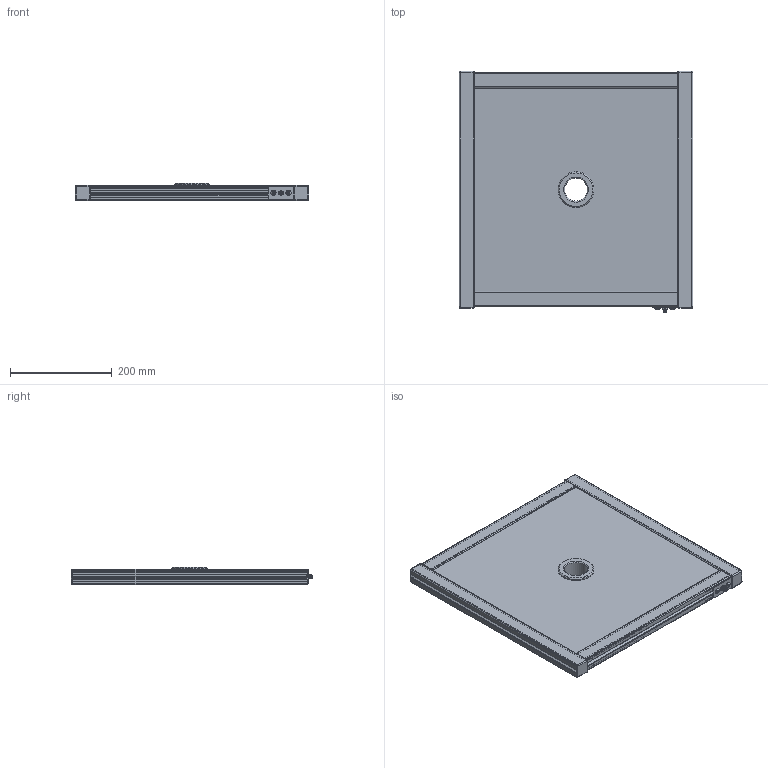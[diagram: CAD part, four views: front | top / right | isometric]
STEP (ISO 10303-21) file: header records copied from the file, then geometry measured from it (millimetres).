
FILE_DESCRIPTION (( 'STEP AP214' ), '1' );
FILE_NAME ('19027-STP01v01 - FL4040.STEP', '2019-10-01T21:33:03', ( '' ), ( '' ), 'SwSTEP 2.0', 'SolidWorks 2018', '' );
FILE_SCHEMA (( 'AUTOMOTIVE_DESIGN' ));
Length unit declared in the file: millimetre
Products named in the file (1): 19027-STP01v01 - FL4040
Bounding box: 460 x 475.01 x 33.6 mm (x, y, z)
Volume: 4838355.3 mm3; surface area: 901042.5 mm2
Topology: 1 solids, 21 shells, 810 faces, 2182 edges, 1394 vertices
Faces by surface type: plane 453, cylinder 299, cone 22, sphere 21, bspline 11, torus 4
Full cylindrical faces by diameter (mm): 1 x3, 5.8 x1, 6 x2, 6.5 x1, 6.9 x1, 10.5 x2, 45 x1, 70 x1, 74 x1
Entity records: 29126 total; most frequent: CARTESIAN_POINT 8092, DIRECTION 4257, ORIENTED_EDGE 4250, EDGE_CURVE 2125, AXIS2_PLACEMENT_3D 1437, LINE 1383, VECTOR 1383, VERTEX_POINT 1383
